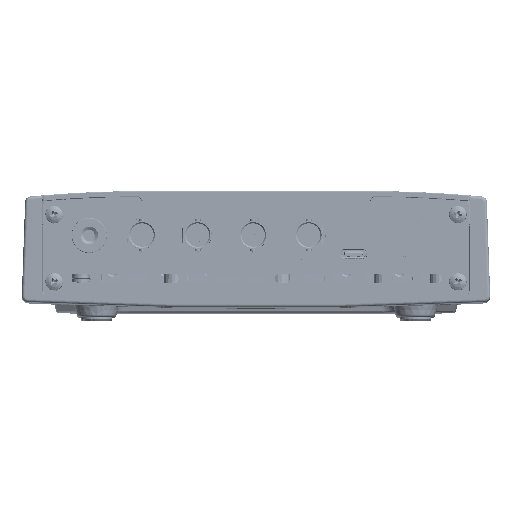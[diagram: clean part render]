
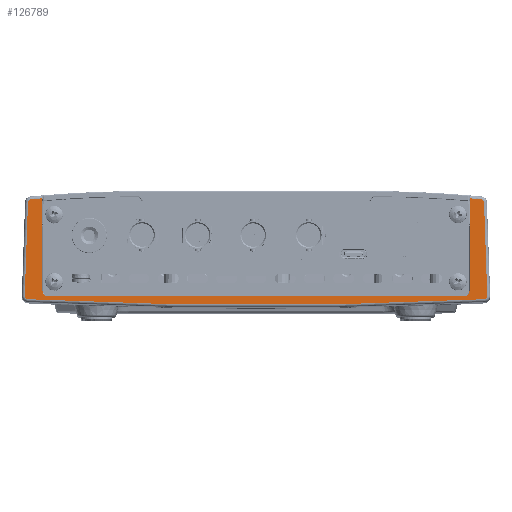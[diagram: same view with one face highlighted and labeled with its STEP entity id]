
A CAD part, top view. The second image highlights one B-rep face of the part: STEP entity #126789.
In plain terms, the highlighted planar face has unit normal (0, 0, 1).
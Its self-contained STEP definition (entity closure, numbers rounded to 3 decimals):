
#144 = DIRECTION ( 'NONE',  ( -1., 0., 0. ) ) ;
#4199 = DIRECTION ( 'NONE',  ( 0., -1., 0. ) ) ;
#7538 = VERTEX_POINT ( 'NONE', #108569 ) ;
#10343 = DIRECTION ( 'NONE',  ( -1., 0., 0. ) ) ;
#20177 = LINE ( 'NONE', #238771, #80419 ) ;
#24453 = LINE ( 'NONE', #181975, #272628 ) ;
#27023 = LINE ( 'NONE', #217243, #269767 ) ;
#30265 = EDGE_CURVE ( 'NONE', #470712, #480067, #342678, .T. ) ;
#45539 = CIRCLE ( 'NONE', #356491, 1. ) ;
#46726 = PLANE ( 'NONE',  #78471 ) ;
#50809 = ORIENTED_EDGE ( 'NONE', *, *, #334381, .T. ) ;
#57182 = CARTESIAN_POINT ( 'NONE',  ( -73., -34., 260. ) ) ;
#60897 = DIRECTION ( 'NONE',  ( 0., 0., -1. ) ) ;
#62312 = DIRECTION ( 'NONE',  ( -1., 0., 0. ) ) ;
#63359 = CARTESIAN_POINT ( 'NONE',  ( 71., -32., 260. ) ) ;
#68542 = AXIS2_PLACEMENT_3D ( 'NONE', #139882, #327699, #62312 ) ;
#70176 = VERTEX_POINT ( 'NONE', #386600 ) ;
#75192 = ORIENTED_EDGE ( 'NONE', *, *, #30265, .T. ) ;
#78471 = AXIS2_PLACEMENT_3D ( 'NONE', #234559, #347229, #4199 ) ;
#80419 = VECTOR ( 'NONE', #207896, 1000. ) ;
#86016 = DIRECTION ( 'NONE',  ( 0., -1., 0. ) ) ;
#87153 = EDGE_CURVE ( 'NONE', #470068, #204628, #487882, .T. ) ;
#90875 = CARTESIAN_POINT ( 'NONE',  ( -77.949, -1.784, 260. ) ) ;
#92246 = DIRECTION ( 'NONE',  ( 1., 0., 0. ) ) ;
#96987 = ORIENTED_EDGE ( 'NONE', *, *, #418739, .T. ) ;
#103193 = ORIENTED_EDGE ( 'NONE', *, *, #437087, .T. ) ;
#103482 = ORIENTED_EDGE ( 'NONE', *, *, #87153, .T. ) ;
#107864 = DIRECTION ( 'NONE',  ( 0., 0., -1. ) ) ;
#108569 = CARTESIAN_POINT ( 'NONE',  ( -73., -32., 260. ) ) ;
#108576 = ORIENTED_EDGE ( 'NONE', *, *, #410098, .T. ) ;
#109651 = DIRECTION ( 'NONE',  ( 0., 1., 0. ) ) ;
#112245 = EDGE_CURVE ( 'NONE', #454622, #7538, #24453, .T. ) ;
#124647 = ORIENTED_EDGE ( 'NONE', *, *, #372026, .F. ) ;
#125510 = VERTEX_POINT ( 'NONE', #212897 ) ;
#126789 = ADVANCED_FACE ( 'NONE', ( #154402 ), #46726, .F. ) ;
#130552 = EDGE_CURVE ( 'NONE', #162698, #362553, #247619, .T. ) ;
#132012 = CIRCLE ( 'NONE', #155879, 1. ) ;
#133594 = ORIENTED_EDGE ( 'NONE', *, *, #241100, .T. ) ;
#134022 = CARTESIAN_POINT ( 'NONE',  ( -79., -33.968, 260. ) ) ;
#135632 = CIRCLE ( 'NONE', #423434, 1. ) ;
#139882 = CARTESIAN_POINT ( 'NONE',  ( 38.923, -397.999, 260. ) ) ;
#150771 = DIRECTION ( 'NONE',  ( -1., 0., 0. ) ) ;
#152309 = VERTEX_POINT ( 'NONE', #473361 ) ;
#154402 = FACE_OUTER_BOUND ( 'NONE', #156704, .T. ) ;
#155184 = AXIS2_PLACEMENT_3D ( 'NONE', #315991, #233443, #468795 ) ;
#155879 = AXIS2_PLACEMENT_3D ( 'NONE', #207692, #210182, #318004 ) ;
#156704 = EDGE_LOOP ( 'NONE', ( #300798, #124647, #461454, #347693, #103193, #474082, #75192, #415528, #415325, #205825, #96987, #103482, #50809, #133594, #108576, #341713 ) ) ;
#162698 = VERTEX_POINT ( 'NONE', #319189 ) ;
#179642 = DIRECTION ( 'NONE',  ( -0.035, 0.999, 0. ) ) ;
#181975 = CARTESIAN_POINT ( 'NONE',  ( -73., -34., 260. ) ) ;
#192772 = VERTEX_POINT ( 'NONE', #392567 ) ;
#196514 = CIRCLE ( 'NONE', #68542, 399. ) ;
#204628 = VERTEX_POINT ( 'NONE', #472633 ) ;
#205825 = ORIENTED_EDGE ( 'NONE', *, *, #130552, .T. ) ;
#207692 = CARTESIAN_POINT ( 'NONE',  ( 76.95, -1.819, 260. ) ) ;
#207896 = DIRECTION ( 'NONE',  ( 0., 1., 0. ) ) ;
#210182 = DIRECTION ( 'NONE',  ( 0., 0., 1. ) ) ;
#212558 = CARTESIAN_POINT ( 'NONE',  ( 78., -33.968, 260. ) ) ;
#212897 = CARTESIAN_POINT ( 'NONE',  ( 71., -34., 260. ) ) ;
#217243 = CARTESIAN_POINT ( 'NONE',  ( 26.8, 1462.936, 260. ) ) ;
#226795 = VECTOR ( 'NONE', #92246, 1000. ) ;
#227410 = VECTOR ( 'NONE', #382742, 1000. ) ;
#233443 = DIRECTION ( 'NONE',  ( 0., 0., 1. ) ) ;
#234559 = CARTESIAN_POINT ( 'NONE',  ( 0., 1462., 260. ) ) ;
#235349 = CIRCLE ( 'NONE', #155184, 399. ) ;
#237724 = CARTESIAN_POINT ( 'NONE',  ( 73., -32., 260. ) ) ;
#238533 = CARTESIAN_POINT ( 'NONE',  ( -77.045, -0.824, 260. ) ) ;
#238771 = CARTESIAN_POINT ( 'NONE',  ( 73., -34., 260. ) ) ;
#241100 = EDGE_CURVE ( 'NONE', #192772, #152309, #132012, .T. ) ;
#243565 = EDGE_CURVE ( 'NONE', #369253, #162698, #45539, .T. ) ;
#245225 = CARTESIAN_POINT ( 'NONE',  ( -79., -31.883, 260. ) ) ;
#247619 = CIRCLE ( 'NONE', #335402, 1499. ) ;
#256154 = DIRECTION ( 'NONE',  ( -1., 0., 0. ) ) ;
#259091 = VERTEX_POINT ( 'NONE', #237724 ) ;
#269767 = VECTOR ( 'NONE', #179642, 1000. ) ;
#272628 = VECTOR ( 'NONE', #442640, 1000. ) ;
#272743 = EDGE_CURVE ( 'NONE', #480067, #369253, #439008, .T. ) ;
#278857 = CARTESIAN_POINT ( 'NONE',  ( -79., 1462., 260. ) ) ;
#280152 = LINE ( 'NONE', #57182, #226795 ) ;
#290212 = DIRECTION ( 'NONE',  ( 0., 0., 1. ) ) ;
#300798 = ORIENTED_EDGE ( 'NONE', *, *, #402207, .T. ) ;
#302305 = CARTESIAN_POINT ( 'NONE',  ( -76.95, -1.819, 260. ) ) ;
#305594 = CARTESIAN_POINT ( 'NONE',  ( -71., -32., 260. ) ) ;
#315991 = CARTESIAN_POINT ( 'NONE',  ( -38.923, -397.999, 260. ) ) ;
#318004 = DIRECTION ( 'NONE',  ( -1., 0., 0. ) ) ;
#319189 = CARTESIAN_POINT ( 'NONE',  ( -78.052, -34.967, 260. ) ) ;
#327201 = AXIS2_PLACEMENT_3D ( 'NONE', #302305, #424987, #379932 ) ;
#327699 = DIRECTION ( 'NONE',  ( 0., 0., 1. ) ) ;
#329733 = VECTOR ( 'NONE', #86016, 1000. ) ;
#334381 = EDGE_CURVE ( 'NONE', #204628, #192772, #27023, .T. ) ;
#335402 = AXIS2_PLACEMENT_3D ( 'NONE', #446517, #371335, #150771 ) ;
#341713 = ORIENTED_EDGE ( 'NONE', *, *, #369572, .F. ) ;
#342678 = LINE ( 'NONE', #420343, #227410 ) ;
#345435 = VERTEX_POINT ( 'NONE', #238533 ) ;
#347229 = DIRECTION ( 'NONE',  ( 0., 0., -1. ) ) ;
#347693 = ORIENTED_EDGE ( 'NONE', *, *, #112245, .F. ) ;
#351117 = CARTESIAN_POINT ( 'NONE',  ( 78.052, -34.967, 260. ) ) ;
#352598 = CARTESIAN_POINT ( 'NONE',  ( 79., -33.968, 260. ) ) ;
#356491 = AXIS2_PLACEMENT_3D ( 'NONE', #433517, #390910, #10343 ) ;
#358686 = CARTESIAN_POINT ( 'NONE',  ( -71., -34., 260. ) ) ;
#359825 = CIRCLE ( 'NONE', #399840, 2. ) ;
#362553 = VERTEX_POINT ( 'NONE', #351117 ) ;
#369253 = VERTEX_POINT ( 'NONE', #134022 ) ;
#369572 = EDGE_CURVE ( 'NONE', #259091, #70176, #20177, .T. ) ;
#371335 = DIRECTION ( 'NONE',  ( 0., 0., 1. ) ) ;
#372026 = EDGE_CURVE ( 'NONE', #423960, #125510, #280152, .T. ) ;
#372711 = CARTESIAN_POINT ( 'NONE',  ( 79., 1462., 260. ) ) ;
#372716 = DIRECTION ( 'NONE',  ( -1., 0., 0. ) ) ;
#379932 = DIRECTION ( 'NONE',  ( -1., 0., 0. ) ) ;
#382742 = DIRECTION ( 'NONE',  ( -0.035, -0.999, 0. ) ) ;
#386600 = CARTESIAN_POINT ( 'NONE',  ( 73., -0.456, 260. ) ) ;
#390910 = DIRECTION ( 'NONE',  ( 0., 0., 1. ) ) ;
#392567 = CARTESIAN_POINT ( 'NONE',  ( 77.949, -1.784, 260. ) ) ;
#399840 = AXIS2_PLACEMENT_3D ( 'NONE', #305594, #107864, #144 ) ;
#402207 = EDGE_CURVE ( 'NONE', #259091, #125510, #454984, .T. ) ;
#410098 = EDGE_CURVE ( 'NONE', #152309, #70176, #196514, .T. ) ;
#412134 = VECTOR ( 'NONE', #109651, 1000. ) ;
#415325 = ORIENTED_EDGE ( 'NONE', *, *, #243565, .T. ) ;
#415528 = ORIENTED_EDGE ( 'NONE', *, *, #272743, .T. ) ;
#418739 = EDGE_CURVE ( 'NONE', #362553, #470068, #135632, .T. ) ;
#419874 = EDGE_CURVE ( 'NONE', #423960, #7538, #359825, .T. ) ;
#420343 = CARTESIAN_POINT ( 'NONE',  ( -26.8, 1462.936, 260. ) ) ;
#423434 = AXIS2_PLACEMENT_3D ( 'NONE', #212558, #290212, #372716 ) ;
#423960 = VERTEX_POINT ( 'NONE', #358686 ) ;
#424987 = DIRECTION ( 'NONE',  ( 0., 0., 1. ) ) ;
#431285 = CIRCLE ( 'NONE', #327201, 1. ) ;
#433517 = CARTESIAN_POINT ( 'NONE',  ( -78., -33.968, 260. ) ) ;
#437087 = EDGE_CURVE ( 'NONE', #454622, #345435, #235349, .T. ) ;
#439008 = LINE ( 'NONE', #278857, #329733 ) ;
#442640 = DIRECTION ( 'NONE',  ( 0., -1., 0. ) ) ;
#446517 = CARTESIAN_POINT ( 'NONE',  ( 0., 1462., 260. ) ) ;
#449128 = CARTESIAN_POINT ( 'NONE',  ( -73., -0.456, 260. ) ) ;
#454622 = VERTEX_POINT ( 'NONE', #449128 ) ;
#454984 = CIRCLE ( 'NONE', #478977, 2. ) ;
#461454 = ORIENTED_EDGE ( 'NONE', *, *, #419874, .T. ) ;
#468795 = DIRECTION ( 'NONE',  ( -1., 0., 0. ) ) ;
#470068 = VERTEX_POINT ( 'NONE', #352598 ) ;
#470712 = VERTEX_POINT ( 'NONE', #90875 ) ;
#472633 = CARTESIAN_POINT ( 'NONE',  ( 79., -31.883, 260. ) ) ;
#473361 = CARTESIAN_POINT ( 'NONE',  ( 77.045, -0.824, 260. ) ) ;
#474082 = ORIENTED_EDGE ( 'NONE', *, *, #492859, .T. ) ;
#478977 = AXIS2_PLACEMENT_3D ( 'NONE', #63359, #60897, #256154 ) ;
#480067 = VERTEX_POINT ( 'NONE', #245225 ) ;
#487882 = LINE ( 'NONE', #372711, #412134 ) ;
#492859 = EDGE_CURVE ( 'NONE', #345435, #470712, #431285, .T. ) ;
